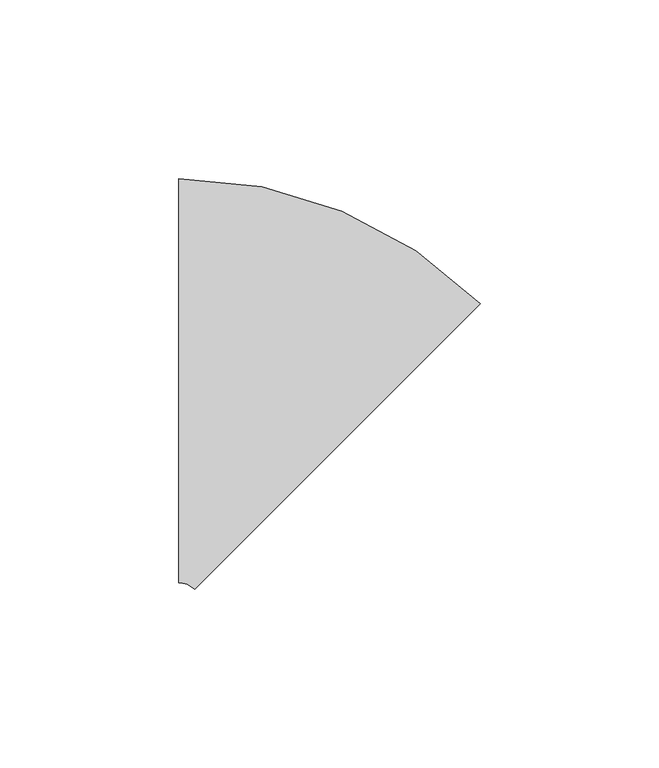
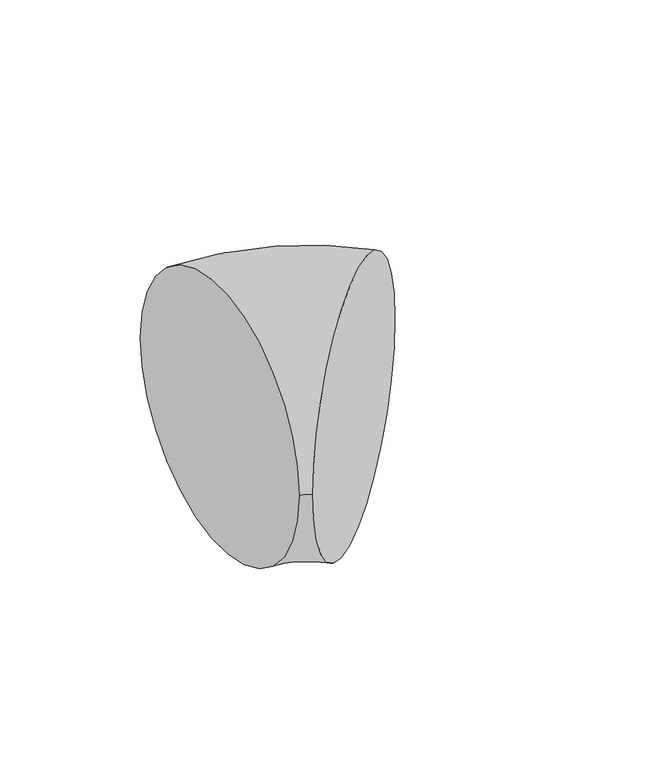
"""IFC4 building model written with IfcOpenShell, lengths in millimetres: pipe fitting geometry, M_Codo - Genérico : Estándar."""

from ifc_helpers import new_model, si_unit, point, frame, origin, place, context, project, spatial, circle_curve, ellipse_curve, trimmed, source, transform, mapped, element, save
from ifc_brep_helpers import plane_surface, revolved_surface, advanced_brep


def pipe_fitting_67d104e7(model_context):
    return source(origin(), model_context, "Body", "AdvancedBrep", [
        advanced_brep(
        [(-26.0680391, 56.5875, 0.0), (-26.0680391, -56.5875, 0.0), (58.4453983, 21.5829385, 0.0), (-21.578097, -58.447186, 0.0)],
        [
            (0, 1, circle_curve(frame((-26.0680391, 0.0, 0.0), z_axis=(-1.0, 0.0, 0.0), x_axis=(0.0, -1.0, 0.0)), 56.5875)),
            (1, 0, circle_curve(frame((-26.0680391, 0.0, 0.0), z_axis=(-1.0, 0.0, 0.0), x_axis=(0.0, -1.0, 0.0)), 56.5875)),
            (2, 3, circle_curve(frame((18.4336507, -18.4321237, 0.0), z_axis=(0.7071360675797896, -0.7070774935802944, 0.0), x_axis=(-0.7070774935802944, -0.7071360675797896, 0.0)), 56.5875)),
            (3, 2, circle_curve(frame((18.4336507, -18.4321237, 0.0), z_axis=(0.7071360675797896, -0.7070774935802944, 0.0), x_axis=(-0.7070774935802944, -0.7071360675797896, 0.0)), 56.5875)),
            (2, 0, circle_curve(frame((-26.0680391, -62.9375, 0.0), z_axis=(0.0, 0.0, 1.0), x_axis=(0.0, 1.0, 0.0)), 119.525)),
            (1, 3, circle_curve(frame((-26.0680391, -62.9375, 0.0), z_axis=(0.0, 0.0, -1.0), x_axis=(0.0, 1.0, 0.0)), 6.35)),
        ],
        [
            plane_surface(frame((-26.0680391, 0.0, 0.0), z_axis=(-1.0, 0.0, 0.0), x_axis=(0.0, 0.0, 1.0))),
            plane_surface(frame((18.4336507, -18.4321237, 0.0), z_axis=(0.7071360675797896, -0.7070774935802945, 0.0), x_axis=(0.0, 0.0, 1.0))),
            revolved_surface(trimmed(ellipse_curve(frame((-26.0680391, 0.0, 0.0), z_axis=(1.0, 0.0, 0.0), x_axis=(0.0, -1.0, 0.0)), 56.5875, 56.5875), [point((-26.0680391, 56.5875, 0.0))], [point((-26.0680391, -56.5875, 0.0))], True, "CARTESIAN"), (-26.0680391, -62.9375, 0.0), (0.0, 0.0, 1.0)),
            revolved_surface(trimmed(ellipse_curve(frame((-26.0680391, 0.0, 0.0), z_axis=(1.0, 0.0, 0.0), x_axis=(0.0, -1.0, 0.0)), 56.5875, 56.5875), [point((-26.0680391, -56.5875, 0.0))], [point((-26.0680391, 56.5875, 0.0))], True, "CARTESIAN"), (-26.0680391, -62.9375, 0.0), (0.0, 0.0, 1.0)),
        ],
        [
            (0, [[1, 2]]),
            (1, [[3, 4]]),
            (2, [[-3, 5, -2, 6]]),
            (3, [[-4, -6, -1, -5]]),
        ],
    ),
    ])


if __name__ == "__main__":
    model = new_model("IFC4")
    model_context = context("Model", 3, world=origin())
    ifc_project = project(units=[si_unit("LENGTHUNIT", "METRE", prefix="MILLI")], contexts=[model_context])
    site = spatial("IfcSite", under=ifc_project)
    building = spatial("IfcBuilding", under=site)
    placement = place(None, origin())
    pipe_fitting_shape = pipe_fitting_67d104e7(model_context)
    element("IfcPipeFitting", 1, ObjectType="M_Codo - Genérico : Estándar", at=placement, inside=building, context=model_context, shape_type="MappedRepresentation", body=[
        mapped(pipe_fitting_shape, transform((0.0, 0.0, 0.0), x_axis=(1.0, 0.0, 0.0), y_axis=(0.0, 1.0, 0.0), z_axis=(0.0, 0.0, 1.0))),
    ])
    save(model, "model.ifc")
